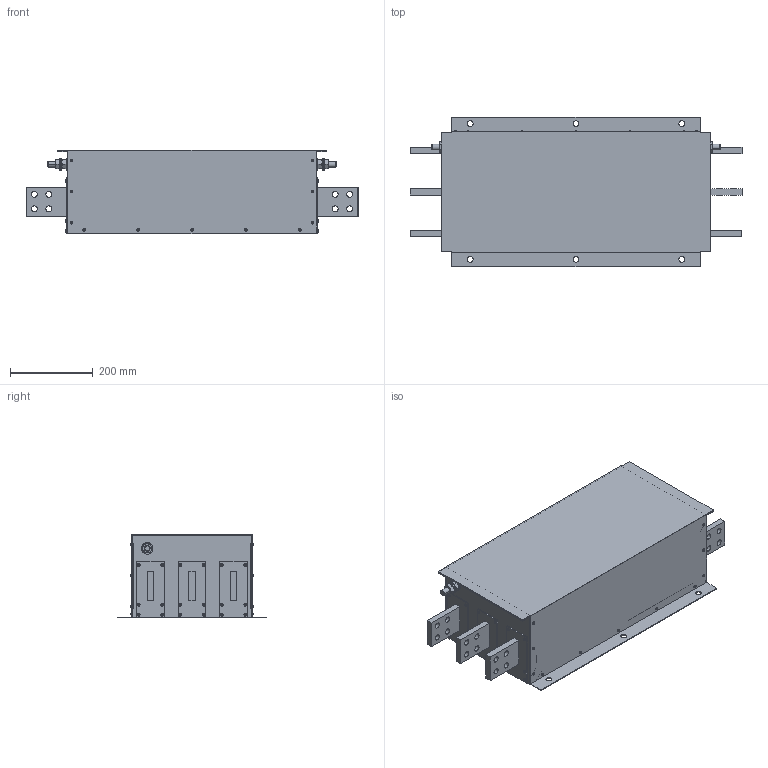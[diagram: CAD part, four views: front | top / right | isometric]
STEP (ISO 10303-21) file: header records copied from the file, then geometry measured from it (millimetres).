
FILE_DESCRIPTION (( 'STEP AP214' ), '1' );
FILE_NAME ('NF_2500.STEP', '2021-01-22T09:24:01', ( '' ), ( '' ), 'SwSTEP 2.0', 'SolidWorks 2021', '' );
FILE_SCHEMA (( 'AUTOMOTIVE_DESIGN' ));
Length unit declared in the file: millimetre
Products named in the file (12): NF-2500_Isolierplatte; 10_00_0934_0014_001; din125-1-a_15-140_hv; NF-2500_Kupferschiene; NF_2500; NF_2500_Oberteil; NF_2500_Unterteil; Niet_4; din_en_24018_m14x50
Assembly tree (81 placements, depth 2):
  NF_2500
    NF_2500_Unterteil
    NF_2500_Oberteil
    NF-2500_Isolierplatte  x6
    NF-2500_Kupferschiene
    NF-2500_Kupferschiene
    NF-2500_Kupferschiene
    din_en_24018_m14x50
    din_en_24018_m14x50
    din125-1-a_15-140_hv  x6
    10_00_0934_0014_001  x4
    Niet_4  x58
Bounding box: 800 x 360 x 202 mm (x, y, z)
Volume: 4241198.9 mm3; surface area: 2164856.9 mm2
Topology: 81 solids, 81 shells, 1361 faces, 3032 edges, 1955 vertices
Faces by surface type: cylinder 696, plane 460, torus 120, cone 85
Entity records: 16335 total; most frequent: DIRECTION 2864, CARTESIAN_POINT 2813, ORIENTED_EDGE 2500, EDGE_CURVE 1250, AXIS2_PLACEMENT_3D 1128, VERTEX_POINT 821, EDGE_LOOP 717, VECTOR 608
